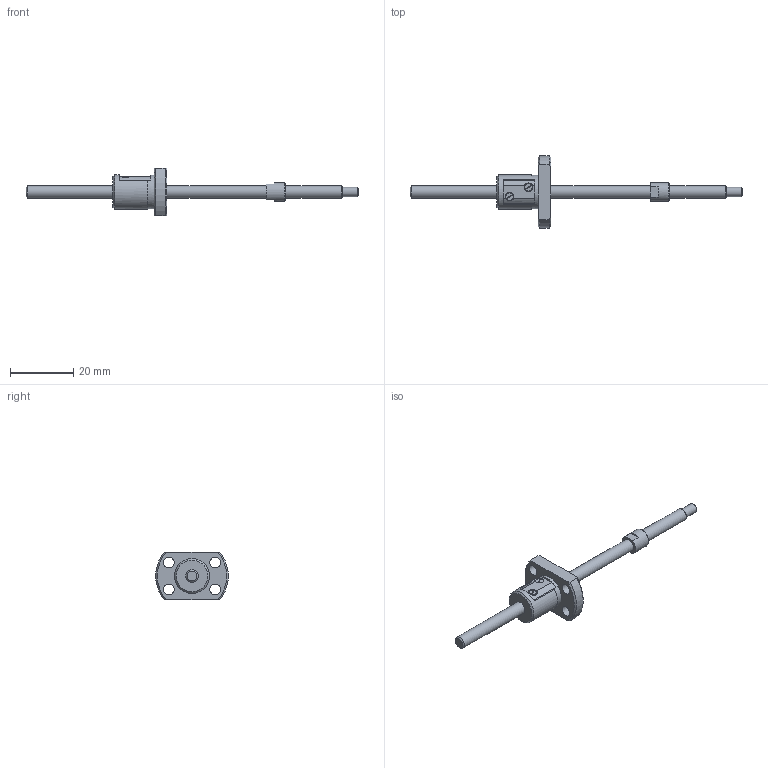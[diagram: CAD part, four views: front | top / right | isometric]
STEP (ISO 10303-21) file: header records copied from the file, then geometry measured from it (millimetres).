
FILE_DESCRIPTION(/* description */ ('STEP AP214'),/* implementation_level */ '2;1');
FILE_NAME(/* name */ 'PSRT0401-72R105C5A0X(A27.5)',/* time_stamp */ '2026-08-06T16:10:17+02:00',/* author */ ('License CC BY-ND 4.0'),/* organization */ ('CADENAS'),/* preprocessor_version */ 'ST-DEVELOPER v20',/* originating_system */ 'PARTsolutions',/* authorisation */ ' ');
FILE_SCHEMA (('AUTOMOTIVE_DESIGN {1 0 10303 214 3 1 1}'));
Length unit declared in the file: millimetre
Products named in the file (3): PSRT0401-72R105C5A0X(A27.5); PSRT0401A105_shaft; PSR0401_nut
Assembly tree (2 placements, depth 2):
  PSRT0401-72R105C5A0X(A27.5)
    PSRT0401A105_shaft
    PSR0401_nut
Bounding box: 105 x 22.93 x 15 mm (x, y, z)
Volume: 3459 mm3; surface area: 3097.1 mm2
Topology: 2 solids, 2 shells, 67 faces, 165 edges, 108 vertices
Faces by surface type: plane 32, cylinder 25, cone 9, torus 1
Full cylindrical faces by diameter (mm): 2.7 x2, 3 x1, 3.4 x4, 4 x3, 6 x1, 10.6 x1, 11 x1
Entity records: 1967 total; most frequent: CARTESIAN_POINT 350, DIRECTION 336, ORIENTED_EDGE 282, EDGE_CURVE 141, AXIS2_PLACEMENT_3D 135, VERTEX_POINT 103, EDGE_LOOP 102, FACE_BOUND 102
